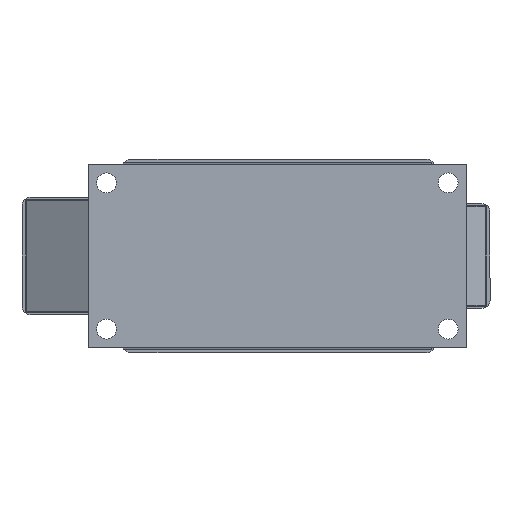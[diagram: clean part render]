
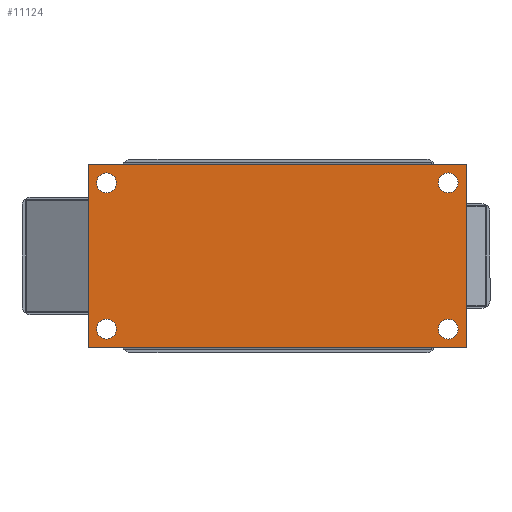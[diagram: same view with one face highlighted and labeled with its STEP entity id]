
A CAD part, front view. The second image highlights one B-rep face of the part: STEP entity #11124.
In plain terms, the highlighted planar face has unit normal (0, -1, 0).
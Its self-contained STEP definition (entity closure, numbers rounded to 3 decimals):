
#229 = FACE_OUTER_BOUND ( 'NONE', #13743, .T. ) ;
#317 = VECTOR ( 'NONE', #24562, 1000. ) ;
#429 = VERTEX_POINT ( 'NONE', #674 ) ;
#674 = CARTESIAN_POINT ( 'NONE',  ( -62., 0., 30. ) ) ;
#788 = EDGE_CURVE ( 'NONE', #7978, #18404, #5498, .T. ) ;
#1526 = FACE_BOUND ( 'NONE', #19445, .T. ) ;
#1764 = CARTESIAN_POINT ( 'NONE',  ( -62., 0., 30. ) ) ;
#2059 = EDGE_CURVE ( 'NONE', #17368, #21958, #7525, .T. ) ;
#2099 = DIRECTION ( 'NONE',  ( 0., 0., -1. ) ) ;
#2136 = CARTESIAN_POINT ( 'NONE',  ( -56., 0., 27.25 ) ) ;
#2330 = CARTESIAN_POINT ( 'NONE',  ( -56., 0., -20.75 ) ) ;
#2473 = FACE_BOUND ( 'NONE', #8450, .T. ) ;
#2571 = EDGE_CURVE ( 'NONE', #18142, #19964, #15118, .T. ) ;
#2612 = CARTESIAN_POINT ( 'NONE',  ( -56., 0., 20.75 ) ) ;
#2658 = CARTESIAN_POINT ( 'NONE',  ( 0., 0., 0. ) ) ;
#2760 = AXIS2_PLACEMENT_3D ( 'NONE', #6723, #2799, #6819 ) ;
#2799 = DIRECTION ( 'NONE',  ( 0., 1., 0. ) ) ;
#2883 = AXIS2_PLACEMENT_3D ( 'NONE', #23416, #17415, #5181 ) ;
#3844 = CARTESIAN_POINT ( 'NONE',  ( 62., 0., 30. ) ) ;
#3902 = DIRECTION ( 'NONE',  ( 0., 0., -1. ) ) ;
#3927 = AXIS2_PLACEMENT_3D ( 'NONE', #2658, #11217, #15149 ) ;
#4175 = VERTEX_POINT ( 'NONE', #26253 ) ;
#5036 = PLANE ( 'NONE',  #3927 ) ;
#5181 = DIRECTION ( 'NONE',  ( 0., 0., 1. ) ) ;
#5312 = DIRECTION ( 'NONE',  ( 0., 1., 0. ) ) ;
#5456 = EDGE_CURVE ( 'NONE', #11853, #21775, #24778, .T. ) ;
#5498 = CIRCLE ( 'NONE', #2760, 3.25 ) ;
#5671 = EDGE_CURVE ( 'NONE', #18404, #7978, #15784, .T. ) ;
#6723 = CARTESIAN_POINT ( 'NONE',  ( -56., 0., 24. ) ) ;
#6819 = DIRECTION ( 'NONE',  ( 0., 0., -1. ) ) ;
#6871 = ORIENTED_EDGE ( 'NONE', *, *, #14937, .F. ) ;
#7075 = FACE_BOUND ( 'NONE', #9889, .T. ) ;
#7209 = EDGE_CURVE ( 'NONE', #429, #17368, #20964, .T. ) ;
#7381 = EDGE_LOOP ( 'NONE', ( #11115, #10235 ) ) ;
#7525 = LINE ( 'NONE', #9697, #21829 ) ;
#7936 = DIRECTION ( 'NONE',  ( 0., 0., 1. ) ) ;
#7954 = CARTESIAN_POINT ( 'NONE',  ( 62., 0., -30. ) ) ;
#7978 = VERTEX_POINT ( 'NONE', #2136 ) ;
#7986 = FACE_BOUND ( 'NONE', #7381, .T. ) ;
#8227 = DIRECTION ( 'NONE',  ( 0., 0., 1. ) ) ;
#8368 = DIRECTION ( 'NONE',  ( 0., 1., 0. ) ) ;
#8450 = EDGE_LOOP ( 'NONE', ( #11151, #10818 ) ) ;
#8953 = EDGE_CURVE ( 'NONE', #21958, #23766, #18216, .T. ) ;
#9068 = CARTESIAN_POINT ( 'NONE',  ( 56., 0., 24. ) ) ;
#9531 = ORIENTED_EDGE ( 'NONE', *, *, #16404, .T. ) ;
#9591 = VERTEX_POINT ( 'NONE', #10791 ) ;
#9697 = CARTESIAN_POINT ( 'NONE',  ( 62., 0., -30. ) ) ;
#9889 = EDGE_LOOP ( 'NONE', ( #23642, #16111 ) ) ;
#9954 = EDGE_CURVE ( 'NONE', #21775, #11853, #13411, .T. ) ;
#10186 = DIRECTION ( 'NONE',  ( 0., 1., 0. ) ) ;
#10235 = ORIENTED_EDGE ( 'NONE', *, *, #13922, .T. ) ;
#10335 = DIRECTION ( 'NONE',  ( 0., 1., 0. ) ) ;
#10791 = CARTESIAN_POINT ( 'NONE',  ( 56., 0., -27.25 ) ) ;
#10818 = ORIENTED_EDGE ( 'NONE', *, *, #9954, .T. ) ;
#11115 = ORIENTED_EDGE ( 'NONE', *, *, #2571, .T. ) ;
#11124 = ADVANCED_FACE ( 'NONE', ( #229, #7986, #7075, #2473, #1526 ), #5036, .F. ) ;
#11151 = ORIENTED_EDGE ( 'NONE', *, *, #5456, .T. ) ;
#11217 = DIRECTION ( 'NONE',  ( 0., 1., 0. ) ) ;
#11853 = VERTEX_POINT ( 'NONE', #15466 ) ;
#11865 = AXIS2_PLACEMENT_3D ( 'NONE', #22535, #10335, #24636 ) ;
#12086 = CARTESIAN_POINT ( 'NONE',  ( -62., 0., -30. ) ) ;
#13399 = VECTOR ( 'NONE', #7936, 1000. ) ;
#13411 = CIRCLE ( 'NONE', #19361, 3.25 ) ;
#13743 = EDGE_LOOP ( 'NONE', ( #24767, #24197, #6871, #26175 ) ) ;
#13922 = EDGE_CURVE ( 'NONE', #19964, #18142, #17016, .T. ) ;
#14335 = CARTESIAN_POINT ( 'NONE',  ( 56., 0., -24. ) ) ;
#14555 = CIRCLE ( 'NONE', #15407, 3.25 ) ;
#14937 = EDGE_CURVE ( 'NONE', #23766, #429, #20031, .T. ) ;
#15118 = CIRCLE ( 'NONE', #2883, 3.25 ) ;
#15149 = DIRECTION ( 'NONE',  ( 0., 0., 1. ) ) ;
#15218 = DIRECTION ( 'NONE',  ( 0., 1., 0. ) ) ;
#15407 = AXIS2_PLACEMENT_3D ( 'NONE', #14335, #24502, #3902 ) ;
#15466 = CARTESIAN_POINT ( 'NONE',  ( 56., 0., 20.75 ) ) ;
#15784 = CIRCLE ( 'NONE', #11865, 3.25 ) ;
#16111 = ORIENTED_EDGE ( 'NONE', *, *, #788, .T. ) ;
#16139 = VECTOR ( 'NONE', #16281, 1000. ) ;
#16221 = CARTESIAN_POINT ( 'NONE',  ( -62., 0., -30. ) ) ;
#16281 = DIRECTION ( 'NONE',  ( 1., 0., 0. ) ) ;
#16285 = CARTESIAN_POINT ( 'NONE',  ( -62., 0., -30. ) ) ;
#16404 = EDGE_CURVE ( 'NONE', #4175, #9591, #22210, .T. ) ;
#17016 = CIRCLE ( 'NONE', #17603, 3.25 ) ;
#17368 = VERTEX_POINT ( 'NONE', #3844 ) ;
#17415 = DIRECTION ( 'NONE',  ( 0., 1., 0. ) ) ;
#17472 = ORIENTED_EDGE ( 'NONE', *, *, #26400, .T. ) ;
#17554 = CARTESIAN_POINT ( 'NONE',  ( -56., 0., -24. ) ) ;
#17603 = AXIS2_PLACEMENT_3D ( 'NONE', #17554, #5312, #23713 ) ;
#17772 = DIRECTION ( 'NONE',  ( 0., 0., -1. ) ) ;
#17809 = AXIS2_PLACEMENT_3D ( 'NONE', #20619, #10186, #8227 ) ;
#18142 = VERTEX_POINT ( 'NONE', #23613 ) ;
#18160 = AXIS2_PLACEMENT_3D ( 'NONE', #24511, #8368, #2099 ) ;
#18216 = LINE ( 'NONE', #12086, #317 ) ;
#18404 = VERTEX_POINT ( 'NONE', #2612 ) ;
#19361 = AXIS2_PLACEMENT_3D ( 'NONE', #9068, #15218, #19803 ) ;
#19445 = EDGE_LOOP ( 'NONE', ( #17472, #9531 ) ) ;
#19803 = DIRECTION ( 'NONE',  ( 0., 0., 1. ) ) ;
#19964 = VERTEX_POINT ( 'NONE', #2330 ) ;
#20031 = LINE ( 'NONE', #16285, #13399 ) ;
#20619 = CARTESIAN_POINT ( 'NONE',  ( 56., 0., 24. ) ) ;
#20964 = LINE ( 'NONE', #1764, #16139 ) ;
#21373 = CARTESIAN_POINT ( 'NONE',  ( 56., 0., 27.25 ) ) ;
#21775 = VERTEX_POINT ( 'NONE', #21373 ) ;
#21829 = VECTOR ( 'NONE', #17772, 1000. ) ;
#21958 = VERTEX_POINT ( 'NONE', #7954 ) ;
#22210 = CIRCLE ( 'NONE', #18160, 3.25 ) ;
#22535 = CARTESIAN_POINT ( 'NONE',  ( -56., 0., 24. ) ) ;
#23416 = CARTESIAN_POINT ( 'NONE',  ( -56., 0., -24. ) ) ;
#23613 = CARTESIAN_POINT ( 'NONE',  ( -56., 0., -27.25 ) ) ;
#23642 = ORIENTED_EDGE ( 'NONE', *, *, #5671, .T. ) ;
#23713 = DIRECTION ( 'NONE',  ( 0., 0., 1. ) ) ;
#23766 = VERTEX_POINT ( 'NONE', #16221 ) ;
#24197 = ORIENTED_EDGE ( 'NONE', *, *, #7209, .F. ) ;
#24502 = DIRECTION ( 'NONE',  ( 0., 1., 0. ) ) ;
#24511 = CARTESIAN_POINT ( 'NONE',  ( 56., 0., -24. ) ) ;
#24562 = DIRECTION ( 'NONE',  ( -1., 0., 0. ) ) ;
#24636 = DIRECTION ( 'NONE',  ( 0., 0., -1. ) ) ;
#24767 = ORIENTED_EDGE ( 'NONE', *, *, #2059, .F. ) ;
#24778 = CIRCLE ( 'NONE', #17809, 3.25 ) ;
#26175 = ORIENTED_EDGE ( 'NONE', *, *, #8953, .F. ) ;
#26253 = CARTESIAN_POINT ( 'NONE',  ( 56., 0., -20.75 ) ) ;
#26400 = EDGE_CURVE ( 'NONE', #9591, #4175, #14555, .T. ) ;
